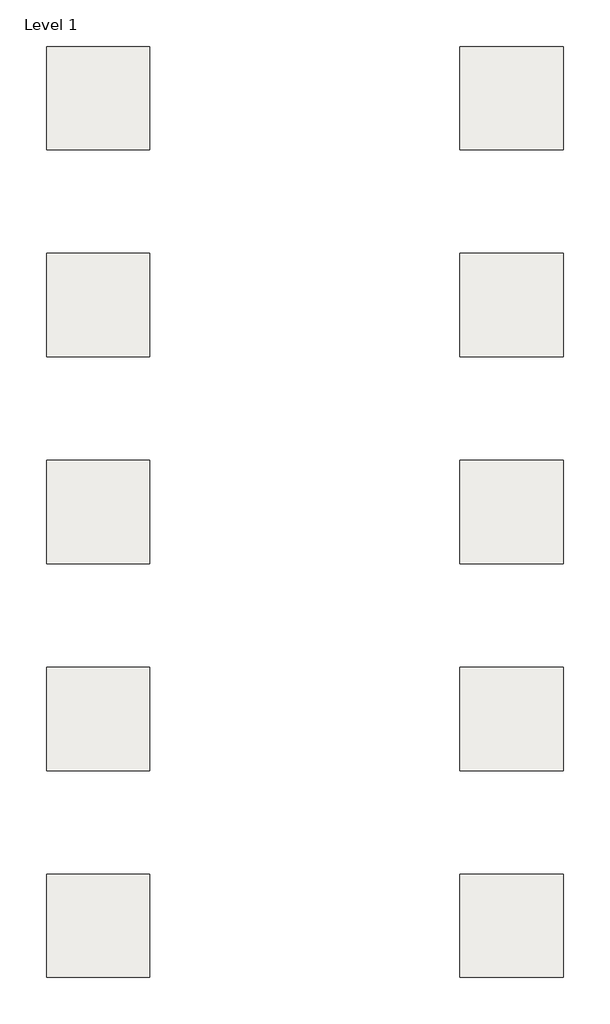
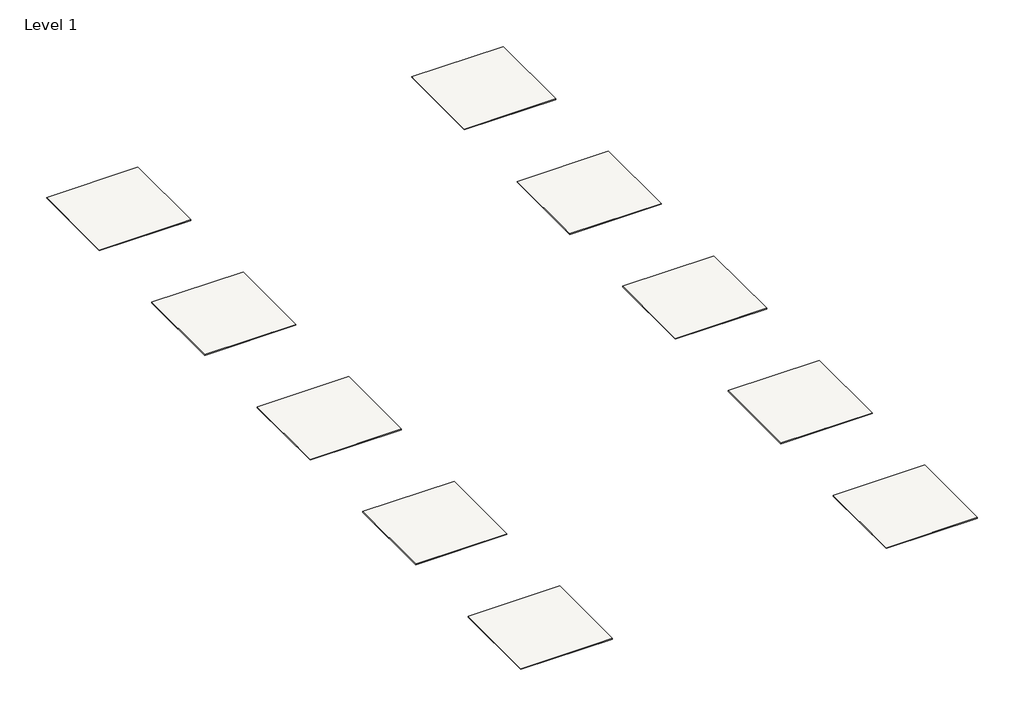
# One storey: 10 coverings.
"""IFC4 building model written with IfcOpenShell, lengths in millimetres."""

from ifc_helpers import new_model, si_unit, frame, origin, place, context, project, spatial, polyline, outline, extrude, element, save

model = new_model("IFC4")

# Units and contexts
model_context = context("Model", 3, world=origin())
ifc_project = project(units=[si_unit("LENGTHUNIT", "METRE", prefix="MILLI")], contexts=[model_context])

# Site, building, storey
site = spatial("IfcSite", under=ifc_project)
building = spatial("IfcBuilding", under=site)
storey = spatial("IfcBuildingStorey", under=building, Name="Level 1", Elevation=0.0)

# Coverings
placement = place(None, origin())
element("IfcCovering", 1, ObjectType="REVIGRES-GRIGIO_DAMASCO-DG-29.5x59.2-POL", at=placement, inside=storey, context=model_context, shape_type="SweptSolid", body=[
    extrude(outline(polyline([(-16138.7645676, -1501.135547), (-15138.7645676, -1501.135547), (-15138.7645676, -2501.135547), (-16138.7645676, -2501.135547), (-16138.7645676, -1501.135547)])), frame((0.0, 0.0, -8.0), z_axis=(0.0, 0.0, 1.0), x_axis=(1.0, 0.0, 0.0)), (0.0, 0.0, 1.0), 8.0),
])
element("IfcCovering", 2, ObjectType="REVIGRES-GRIGIO_DAMASCO-DG-29.5x59.2-MATT_RECT", at=placement, inside=storey, context=model_context, shape_type="SweptSolid", body=[
    extrude(outline(polyline([(-20138.7645676, -1501.135547), (-19138.7645676, -1501.135547), (-19138.7645676, -2501.135547), (-20138.7645676, -2501.135547), (-20138.7645676, -1501.135547)])), frame((0.0, 0.0, -8.5), z_axis=(0.0, 0.0, 1.0), x_axis=(1.0, 0.0, 0.0)), (0.0, 0.0, 1.0), 8.5),
])
element("IfcCovering", 3, ObjectType="REVIGRES-GRIGIO_DAMASCO-DG-59.2x59.2-POL", at=placement, inside=storey, context=model_context, shape_type="SweptSolid", body=[
    extrude(outline(polyline([(-16138.7645676, -3501.135547), (-15138.7645676, -3501.135547), (-15138.7645676, -4501.135547), (-16138.7645676, -4501.135547), (-16138.7645676, -3501.135547)])), frame((0.0, 0.0, -8.0), z_axis=(0.0, 0.0, 1.0), x_axis=(1.0, 0.0, 0.0)), (0.0, 0.0, 1.0), 8.0),
])
element("IfcCovering", 4, ObjectType="REVIGRES-GRIGIO_DAMASCO-DG-59.2x59.2-MATT_RECT", at=placement, inside=storey, context=model_context, shape_type="SweptSolid", body=[
    extrude(outline(polyline([(-20138.7645676, -3501.135547), (-19138.7645676, -3501.135547), (-19138.7645676, -4501.135547), (-20138.7645676, -4501.135547), (-20138.7645676, -3501.135547)])), frame((0.0, 0.0, -8.5), z_axis=(0.0, 0.0, 1.0), x_axis=(1.0, 0.0, 0.0)), (0.0, 0.0, 1.0), 8.5),
])
element("IfcCovering", 5, ObjectType="REVIGRES-GRIGIO_DAMASCO-DG-59.2x118.6-POL", at=placement, inside=storey, context=model_context, shape_type="SweptSolid", body=[
    extrude(outline(polyline([(-16138.7645676, -9501.135547), (-15138.7645676, -9501.135547), (-15138.7645676, -10501.135547), (-16138.7645676, -10501.135547), (-16138.7645676, -9501.135547)])), frame((0.0, 0.0, -9.3), z_axis=(0.0, 0.0, 1.0), x_axis=(1.0, 0.0, 0.0)), (0.0, 0.0, 1.0), 9.3),
])
element("IfcCovering", 6, ObjectType="REVIGRES-GRIGIO_DAMASCO-DG-59.2x118.6-MATT_RECT", at=placement, inside=storey, context=model_context, shape_type="SweptSolid", body=[
    extrude(outline(polyline([(-20138.7645676, -9501.135547), (-19138.7645676, -9501.135547), (-19138.7645676, -10501.135547), (-20138.7645676, -10501.135547), (-20138.7645676, -9501.135547)])), frame((0.0, 0.0, -9.8), z_axis=(0.0, 0.0, 1.0), x_axis=(1.0, 0.0, 0.0)), (0.0, 0.0, 1.0), 9.8),
])
element("IfcCovering", 7, ObjectType="REVIGRES-GRIGIO_DAMASCO-DG-44.35x88.9-POL", at=placement, inside=storey, context=model_context, shape_type="SweptSolid", body=[
    extrude(outline(polyline([(-16138.7645676, -5501.135547), (-15138.7645676, -5501.135547), (-15138.7645676, -6501.135547), (-16138.7645676, -6501.135547), (-16138.7645676, -5501.135547)])), frame((0.0, 0.0, -9.8), z_axis=(0.0, 0.0, 1.0), x_axis=(1.0, 0.0, 0.0)), (0.0, 0.0, 1.0), 9.8),
])
element("IfcCovering", 8, ObjectType="REVIGRES-GRIGIO_DAMASCO-DG-44.35x88.9-MATT_RECT", at=placement, inside=storey, context=model_context, shape_type="SweptSolid", body=[
    extrude(outline(polyline([(-20138.7645676, -5501.135547), (-19138.7645676, -5501.135547), (-19138.7645676, -6501.135547), (-20138.7645676, -6501.135547), (-20138.7645676, -5501.135547)])), frame((0.0, 0.0, -10.5), z_axis=(0.0, 0.0, 1.0), x_axis=(1.0, 0.0, 0.0)), (0.0, 0.0, 1.0), 10.5),
])
element("IfcCovering", 9, ObjectType="REVIGRES-GRIGIO_DAMASCO-DG-29.5x118.6-POL", at=placement, inside=storey, context=model_context, shape_type="SweptSolid", body=[
    extrude(outline(polyline([(-16138.7645676, -7501.135547), (-15138.7645676, -7501.135547), (-15138.7645676, -8501.135547), (-16138.7645676, -8501.135547), (-16138.7645676, -7501.135547)])), frame((0.0, 0.0, -9.3), z_axis=(0.0, 0.0, 1.0), x_axis=(1.0, 0.0, 0.0)), (0.0, 0.0, 1.0), 9.3),
])
element("IfcCovering", 10, ObjectType="REVIGRES-GRIGIO_DAMASCO-DG-29.5x118.6-MATT_RECT", at=placement, inside=storey, context=model_context, shape_type="SweptSolid", body=[
    extrude(outline(polyline([(-20138.7645676, -7501.135547), (-19138.7645676, -7501.135547), (-19138.7645676, -8501.135547), (-20138.7645676, -8501.135547), (-20138.7645676, -7501.135547)])), frame((0.0, 0.0, -9.8), z_axis=(0.0, 0.0, 1.0), x_axis=(1.0, 0.0, 0.0)), (0.0, 0.0, 1.0), 9.8),
])

save(model, "model.ifc")
